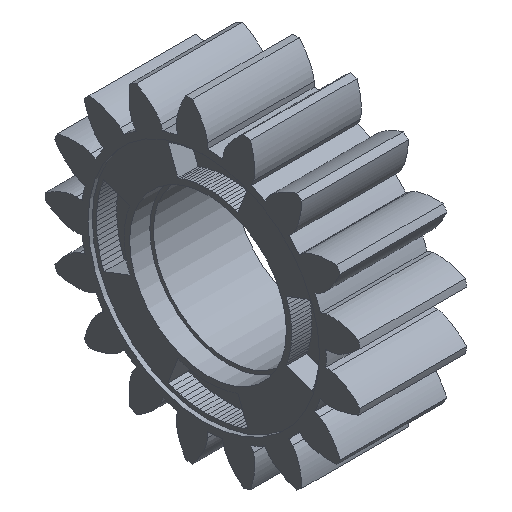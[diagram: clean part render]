
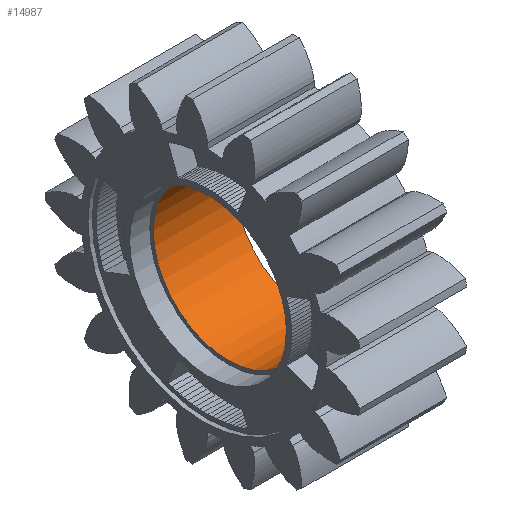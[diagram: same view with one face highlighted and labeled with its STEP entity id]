
A CAD part, isometric view. The second image highlights one B-rep face of the part: STEP entity #14987.
In plain terms, the highlighted cylindrical face has radius 7.025 mm (diameter 14.05 mm), a full revolution.
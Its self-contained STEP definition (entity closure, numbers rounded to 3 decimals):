
#168 = PLANE('',#169);
#169 = AXIS2_PLACEMENT_3D('',#170,#171,#172);
#170 = CARTESIAN_POINT('',(55.5,-49.893,-53.918));
#171 = DIRECTION('',(1.,0.,0.));
#172 = DIRECTION('',(-0.,0.,1.));
#7321 = EDGE_CURVE('',#7322,#7322,#7324,.T.);
#7322 = VERTEX_POINT('',#7323);
#7323 = CARTESIAN_POINT('',(55.5,-49.893,-46.893));
#7324 = SURFACE_CURVE('',#7325,(#7330,#7337),.PCURVE_S1.);
#7325 = CIRCLE('',#7326,7.025);
#7326 = AXIS2_PLACEMENT_3D('',#7327,#7328,#7329);
#7327 = CARTESIAN_POINT('',(55.5,-49.893,-53.918));
#7328 = DIRECTION('',(1.,0.,0.));
#7329 = DIRECTION('',(-0.,0.,1.));
#7330 = PCURVE('',#168,#7331);
#7331 = DEFINITIONAL_REPRESENTATION('',(#7332),#7336);
#7332 = CIRCLE('',#7333,7.025);
#7333 = AXIS2_PLACEMENT_2D('',#7334,#7335);
#7334 = CARTESIAN_POINT('',(0.,0.));
#7335 = DIRECTION('',(1.,0.));
#7336 = ( GEOMETRIC_REPRESENTATION_CONTEXT(2) 
PARAMETRIC_REPRESENTATION_CONTEXT() REPRESENTATION_CONTEXT('2D SPACE',''
  ) );
#7337 = PCURVE('',#7338,#7343);
#7338 = CYLINDRICAL_SURFACE('',#7339,7.025);
#7339 = AXIS2_PLACEMENT_3D('',#7340,#7341,#7342);
#7340 = CARTESIAN_POINT('',(45.4,-49.893,-53.918));
#7341 = DIRECTION('',(1.,0.,0.));
#7342 = DIRECTION('',(-0.,0.,1.));
#7343 = DEFINITIONAL_REPRESENTATION('',(#7344),#7348);
#7344 = LINE('',#7345,#7346);
#7345 = CARTESIAN_POINT('',(0.,10.1));
#7346 = VECTOR('',#7347,1.);
#7347 = DIRECTION('',(1.,0.));
#7348 = ( GEOMETRIC_REPRESENTATION_CONTEXT(2) 
PARAMETRIC_REPRESENTATION_CONTEXT() REPRESENTATION_CONTEXT('2D SPACE',''
  ) );
#14987 = ADVANCED_FACE('',(#14988),#7338,.F.);
#14988 = FACE_BOUND('',#14989,.F.);
#14989 = EDGE_LOOP('',(#14990,#15013,#15014,#15015));
#14990 = ORIENTED_EDGE('',*,*,#14991,.T.);
#14991 = EDGE_CURVE('',#14992,#7322,#14994,.T.);
#14992 = VERTEX_POINT('',#14993);
#14993 = CARTESIAN_POINT('',(47.8,-49.893,-46.893));
#14994 = SEAM_CURVE('',#14995,(#14999,#15006),.PCURVE_S1.);
#14995 = LINE('',#14996,#14997);
#14996 = CARTESIAN_POINT('',(45.4,-49.893,-46.893));
#14997 = VECTOR('',#14998,1.);
#14998 = DIRECTION('',(1.,0.,0.));
#14999 = PCURVE('',#7338,#15000);
#15000 = DEFINITIONAL_REPRESENTATION('',(#15001),#15005);
#15001 = LINE('',#15002,#15003);
#15002 = CARTESIAN_POINT('',(6.283,-0.));
#15003 = VECTOR('',#15004,1.);
#15004 = DIRECTION('',(0.,1.));
#15005 = ( GEOMETRIC_REPRESENTATION_CONTEXT(2) 
PARAMETRIC_REPRESENTATION_CONTEXT() REPRESENTATION_CONTEXT('2D SPACE',''
  ) );
#15006 = PCURVE('',#7338,#15007);
#15007 = DEFINITIONAL_REPRESENTATION('',(#15008),#15012);
#15008 = LINE('',#15009,#15010);
#15009 = CARTESIAN_POINT('',(0.,-0.));
#15010 = VECTOR('',#15011,1.);
#15011 = DIRECTION('',(0.,1.));
#15012 = ( GEOMETRIC_REPRESENTATION_CONTEXT(2) 
PARAMETRIC_REPRESENTATION_CONTEXT() REPRESENTATION_CONTEXT('2D SPACE',''
  ) );
#15013 = ORIENTED_EDGE('',*,*,#7321,.F.);
#15014 = ORIENTED_EDGE('',*,*,#14991,.F.);
#15015 = ORIENTED_EDGE('',*,*,#15016,.T.);
#15016 = EDGE_CURVE('',#14992,#14992,#15017,.T.);
#15017 = SURFACE_CURVE('',#15018,(#15023,#15030),.PCURVE_S1.);
#15018 = CIRCLE('',#15019,7.025);
#15019 = AXIS2_PLACEMENT_3D('',#15020,#15021,#15022);
#15020 = CARTESIAN_POINT('',(47.8,-49.893,-53.918));
#15021 = DIRECTION('',(1.,0.,0.));
#15022 = DIRECTION('',(-0.,0.,1.));
#15023 = PCURVE('',#7338,#15024);
#15024 = DEFINITIONAL_REPRESENTATION('',(#15025),#15029);
#15025 = LINE('',#15026,#15027);
#15026 = CARTESIAN_POINT('',(0.,2.4));
#15027 = VECTOR('',#15028,1.);
#15028 = DIRECTION('',(1.,0.));
#15029 = ( GEOMETRIC_REPRESENTATION_CONTEXT(2) 
PARAMETRIC_REPRESENTATION_CONTEXT() REPRESENTATION_CONTEXT('2D SPACE',''
  ) );
#15030 = PCURVE('',#15031,#15036);
#15031 = PLANE('',#15032);
#15032 = AXIS2_PLACEMENT_3D('',#15033,#15034,#15035);
#15033 = CARTESIAN_POINT('',(47.8,-49.893,-53.918));
#15034 = DIRECTION('',(1.,0.,0.));
#15035 = DIRECTION('',(-0.,0.,1.));
#15036 = DEFINITIONAL_REPRESENTATION('',(#15037),#15041);
#15037 = CIRCLE('',#15038,7.025);
#15038 = AXIS2_PLACEMENT_2D('',#15039,#15040);
#15039 = CARTESIAN_POINT('',(0.,0.));
#15040 = DIRECTION('',(1.,0.));
#15041 = ( GEOMETRIC_REPRESENTATION_CONTEXT(2) 
PARAMETRIC_REPRESENTATION_CONTEXT() REPRESENTATION_CONTEXT('2D SPACE',''
  ) );
